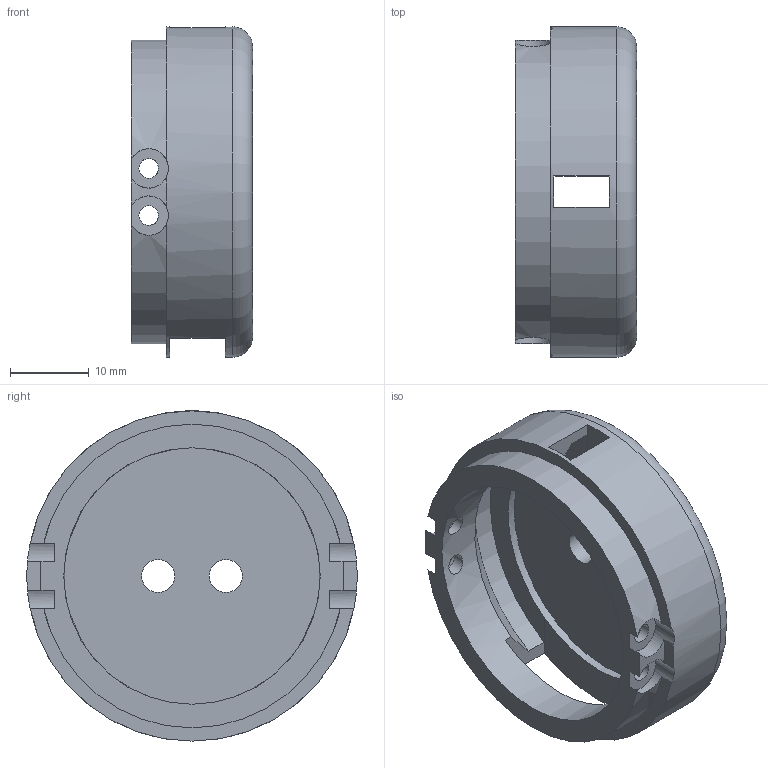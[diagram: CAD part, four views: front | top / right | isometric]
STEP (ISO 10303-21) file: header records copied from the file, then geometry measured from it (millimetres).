
FILE_DESCRIPTION(('Open CASCADE Model'),'2;1');
FILE_NAME('Open CASCADE Shape Model','2026-11-03T00:01:04',('Author'),( 'Open CASCADE'),'Open CASCADE STEP processor 8.0','build123d', 'Unknown');
FILE_SCHEMA(('AUTOMOTIVE_DESIGN { 1 0 10303 214 1 1 1 1 }'));
Length unit declared in the file: millimetre
Products named in the file (1): COMPOUND
Bounding box: 15.4 x 42 x 42 mm (x, y, z)
Volume: 7128.1 mm3; surface area: 6476.6 mm2
Topology: 1 solids, 1 shells, 45 faces, 134 edges, 89 vertices
Faces by surface type: plane 23, cylinder 19, cone 2, torus 1
Full cylindrical faces by diameter (mm): 2.5 x4, 4.2 x2, 32.6 x2, 42 x1
Entity records: 4624 total; most frequent: CARTESIAN_POINT 2149, DIRECTION 400, ORIENTED_EDGE 268, PCURVE 268, DEFINITIONAL_REPRESENTATION 268, LINE 152, VECTOR 152, B_SPLINE_CURVE_WITH_KNOTS 142
